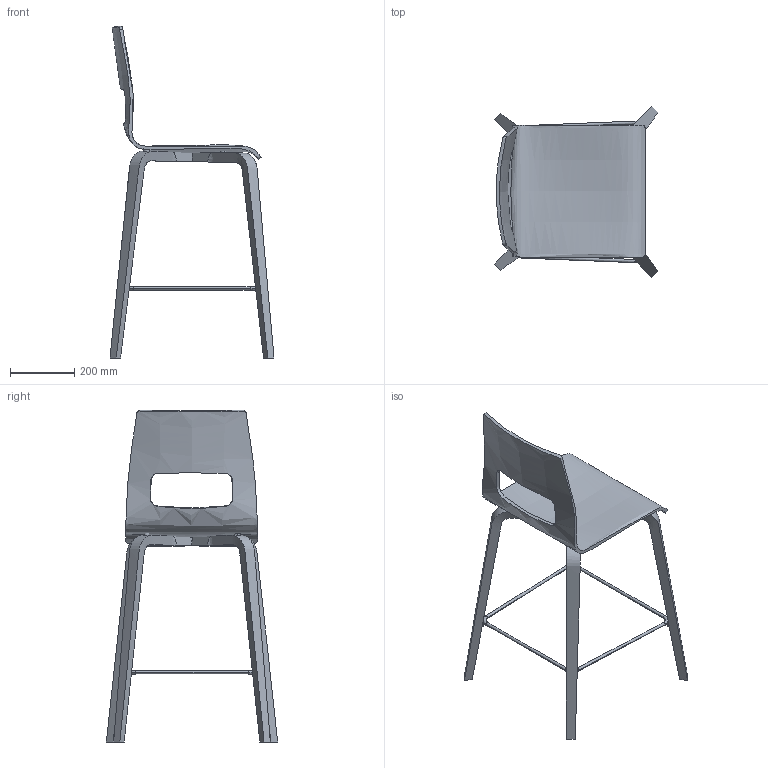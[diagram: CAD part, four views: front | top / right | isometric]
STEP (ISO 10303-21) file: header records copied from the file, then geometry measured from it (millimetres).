
FILE_DESCRIPTION(/* description */ (''),/* implementation_level */ '2;1');
FILE_NAME(/* name */ 'ANA_PB6_HT65',/* time_stamp */ '2024-12-02T09:58:26+01:00',/* author */ (''),/* organization */ (''),/* preprocessor_version */ 'ST-DEVELOPER v19.2',/* originating_system */ 'Rhino 8.12',/* authorisation */ '');
FILE_SCHEMA (('CONFIG_CONTROL_DESIGN'));
Length unit declared in the file: millimetre
Products named in the file (4): Document; Repose Pied PB6; PB6 HT65 Femelle; PB6 HT65 Mâle
Bounding box: 509.42 x 531.89 x 1031.27 mm (x, y, z)
Volume: 3315956.2 mm3; surface area: 1080649.9 mm2
Topology: 18 solids, 54 shells, 234 faces, 615 edges, 456 vertices
Faces by surface type: plane 94, cylinder 76, bspline 64
Entity records: 76333 total; most frequent: CARTESIAN_POINT 71320, ORIENTED_EDGE 1026, EDGE_CURVE 614, DIRECTION 498, VERTEX_POINT 454, B_SPLINE_CURVE_WITH_KNOTS 334, AXIS2_PLACEMENT_3D 334, EDGE_LOOP 284
